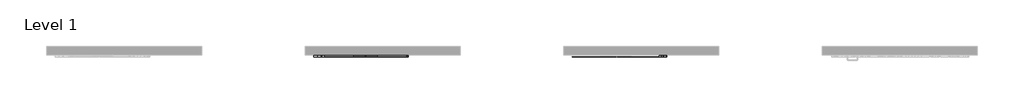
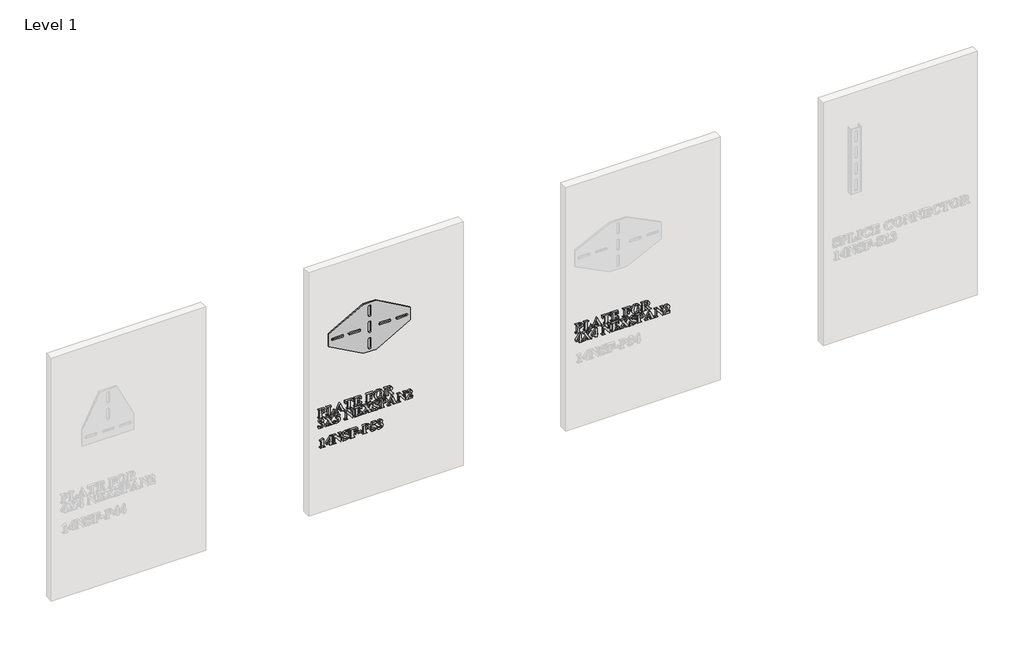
# One storey, part 19 of 21: 4 proxies.
"""IFC4 building model written with IfcOpenShell, lengths in millimetres."""

from ifc_helpers import new_model, si_unit, frame, origin, place, context, project, spatial, polyline, outline, extrude, transform, mapped, element, save
from components import generic_models_20bb5660

model = new_model("IFC4")

# Units and contexts
model_context = context("Model", 3, world=origin())
ifc_project = project(units=[si_unit("LENGTHUNIT", "METRE", prefix="MILLI")], contexts=[model_context])

# Site, building, storey
site = spatial("IfcSite", under=ifc_project)
building = spatial("IfcBuilding", under=site)
storey = spatial("IfcBuildingStorey", under=building, Name="Level 1", Elevation=0.0)

# Proxies
placement = place(None, origin())
element("IfcBuildingElementProxy", 1, Name="2\"\" Arial", ObjectType="2\"\" Arial", at=placement, inside=storey, context=model_context, shape_type="SweptSolid", body=[
    extrude(outline(polyline([(624.2127681, 32924.7890158), (625.1268914, 32938.043803), (630.022991, 32947.1781105), (638.6586857, 32950.4952699), (648.6032388, 32945.4468164), (652.5782899, 32928.7917676), (652.5782899, 32905.2877195), (650.8054448, 32905.2877195), (650.2029545, 32910.0730163), (648.5963136, 32911.8666369), (643.7140644, 32912.3791), (609.1435847, 32912.3791), (604.2751858, 32911.8666369), (602.6685449, 32910.0937918), (602.0522042, 32905.2877195), (600.2793591, 32905.2877195), (600.2793591, 32931.8803962), (602.0522042, 32931.8803962), (602.6546946, 32927.1089498), (604.2613354, 32925.3014788), (609.1435847, 32924.7890158), (624.2127681, 32924.7890158)]), holes=[polyline([(649.9190223, 32924.7890158), (649.9190223, 32926.5757112), (647.1628021, 32935.1975556), (638.4786311, 32938.0853541), (629.6421063, 32935.1975556), (626.7889337, 32926.9773714), (626.8720358, 32924.7890158), (649.9190223, 32924.7890158)])]), frame((0.0, -15490.3579358, 0.0), z_axis=(0.0, 1.0, 0.0), x_axis=(0.0, 0.0, 1.0)), (0.0, 0.0, 1.0), 12.7),
    extrude(outline(polyline([(619.7806553, 33001.9077782), (619.7806553, 33000.1349331), (610.1269597, 32996.3399365), (605.3416629, 32991.5892656), (603.8250493, 32984.7194908), (603.8250493, 32980.4120312), (604.1713081, 32975.7998638), (605.7848742, 32973.999318), (610.8333277, 32973.5422564), (643.7140644, 32973.5422564), (648.298531, 32973.9162159), (650.0436754, 32975.3289518), (650.8054448, 32978.597635), (650.8054448, 32980.6336368), (652.5782899, 32980.6336368), (652.5782899, 32954.0409601), (650.8054448, 32954.0409601), (650.8054448, 32955.7168528), (650.0990768, 32959.0686381), (648.4439597, 32960.7237552), (643.7140644, 32961.1323406), (609.1435847, 32961.1323406), (604.559118, 32960.7306804), (602.8139736, 32959.2348423), (602.0522042, 32955.7168528), (602.0522042, 32954.0409601), (600.2793591, 32954.0409601), (600.2793591, 33000.1349331), (619.7806553, 33001.9077782)])), frame((0.0, -15490.3579358, 0.0), z_axis=(0.0, 1.0, 0.0), x_axis=(0.0, 0.0, 1.0)), (0.0, 0.0, 1.0), 12.7),
    extrude(outline(polyline([(615.3485426, 33036.8660677), (608.7003734, 33039.7884921), (604.559118, 33041.1735273), (602.869375, 33040.3286558), (602.0522042, 33035.0101205), (600.2793591, 33035.0101205), (600.2793591, 33060.4116669), (602.0522042, 33060.4116669), (603.4095388, 33056.7136228), (610.9025794, 33052.28151), (653.4647125, 33032.6278599), (612.066009, 33013.8052309), (604.3375124, 33009.3384922), (602.0522042, 33004.7193997), (600.2793591, 33004.7193997), (600.2793591, 33022.4894019), (602.0522042, 33022.4894019), (602.9386268, 33017.3647715), (606.0272554, 33015.5919264), (610.0300072, 33016.6722539), (615.3485426, 33019.0822152), (615.3485426, 33036.8660677)]), holes=[polyline([(618.8942328, 33035.3148283), (618.8942328, 33020.6888561), (635.2376487, 33028.0987946), (618.8942328, 33035.3148283)])]), frame((0.0, -15490.3579358, 0.0), z_axis=(0.0, 1.0, 0.0), x_axis=(0.0, 0.0, 1.0)), (0.0, 0.0, 1.0), 12.7),
    extrude(outline(polyline([(652.5782899, 33110.05133), (652.5782899, 33063.9573571), (637.5091065, 33063.9573571), (637.5091065, 33065.7302022), (646.7195908, 33069.8299065), (649.0325997, 33077.2536955), (649.0325997, 33080.7993857), (609.1435847, 33080.7993857), (604.559118, 33080.3977255), (602.8139736, 33078.8741867), (602.0522042, 33075.3700475), (602.0522042, 33073.7080052), (600.2793591, 33073.7080052), (600.2793591, 33100.3006819), (602.0522042, 33100.3006819), (602.0522042, 33098.65249), (602.7585722, 33095.2868543), (604.4136893, 33093.6317372), (609.1435847, 33093.2093015), (649.0325997, 33093.2093015), (649.0325997, 33096.7549917), (648.3123814, 33101.6857172), (644.7874667, 33105.646918), (637.5091065, 33108.2784849), (637.5091065, 33110.05133), (652.5782899, 33110.05133)])), frame((0.0, -15490.3579358, 0.0), z_axis=(0.0, 1.0, 0.0), x_axis=(0.0, 0.0, 1.0)), (0.0, 0.0, 1.0), 12.7),
    extrude(outline(polyline([(649.0325997, 33134.8711616), (649.0325997, 33139.3032744), (648.3400821, 33147.3364788), (644.7320653, 33153.0289737), (636.6226839, 33156.145303), (636.6226839, 33157.9181481), (652.5782899, 33157.9181481), (652.5782899, 33115.3698654), (650.8054448, 33115.3698654), (650.8054448, 33117.045758), (649.7805187, 33120.896156), (647.827619, 33122.2811912), (643.7140644, 33122.4612458), (609.1435847, 33122.4612458), (604.559118, 33122.0595856), (602.8139736, 33120.5637475), (602.0522042, 33117.045758), (602.0522042, 33115.3698654), (600.2793591, 33115.3698654), (600.2793591, 33159.1785302), (616.8859317, 33160.1203541), (606.4427659, 33154.0054235), (602.9386268, 33142.6827604), (602.9386268, 33139.6633836), (603.5549675, 33136.5470543), (605.1339076, 33135.2243456), (610.4039667, 33134.8711616), (625.0991907, 33134.8711616), (624.0950401, 33139.878064), (620.1753904, 33142.9112912), (612.6892749, 33144.6218097), (612.6892749, 33146.3946548), (640.1683741, 33146.3946548), (640.1683741, 33144.6218097), (630.9024884, 33142.1148959), (627.7584584, 33134.8711616), (649.0325997, 33134.8711616)])), frame((0.0, -15490.3579358, 0.0), z_axis=(0.0, 1.0, 0.0), x_axis=(0.0, 0.0, 1.0)), (0.0, 0.0, 1.0), 12.7),
    extrude(outline(polyline([(649.0325997, 33206.6713887), (649.0325997, 33211.1035015), (648.4370346, 33219.6630193), (644.7251401, 33226.0757325), (636.6226839, 33228.8319526), (636.6226839, 33230.6047977), (652.5782899, 33230.6047977), (652.5782899, 33187.1700924), (650.8054448, 33187.1700924), (650.8054448, 33188.8459851), (650.0990768, 33192.1977704), (648.4439597, 33193.8528875), (643.7140644, 33194.2614729), (609.1435847, 33194.2614729), (604.559118, 33193.8598127), (602.8139736, 33192.3639746), (602.0522042, 33188.8459851), (602.0522042, 33187.1700924), (600.2793591, 33187.1700924), (600.2793591, 33213.7627691), (602.0522042, 33213.7627691), (602.0522042, 33212.1007268), (602.7585722, 33208.7558667), (604.4136893, 33207.0938244), (609.1435847, 33206.6713887), (625.0991907, 33206.6713887), (625.0991907, 33208.4442338), (622.6823042, 33215.3555597), (612.6892749, 33219.0813045), (612.6892749, 33220.8541496), (641.0547967, 33220.8541496), (641.0547967, 33219.0813045), (633.6725588, 33217.2253572), (629.7944602, 33213.7419936), (628.6448809, 33208.4442338), (628.6448809, 33206.6713887), (649.0325997, 33206.6713887)])), frame((0.0, -15490.3579358, 0.0), z_axis=(0.0, 1.0, 0.0), x_axis=(0.0, 0.0, 1.0)), (0.0, 0.0, 1.0), 12.7),
    extrude(outline(polyline([(653.4647125, 33263.0561735), (651.8788471, 33252.514324), (646.1794271, 33243.7695577), (637.4606302, 33237.8848892), (626.8166344, 33235.923333), (617.1733265, 33237.4295589), (608.9358294, 33241.9482364), (601.7786598, 33251.1656459), (599.3929366, 33263.5547862), (601.8929252, 33275.9127631), (609.392891, 33285.1197849), (626.8581854, 33290.8815315), (637.4969874, 33288.9494074), (646.2002026, 33283.1530349), (651.884041, 33274.2645712), (653.4647125, 33263.0561735)]), holes=[polyline([(650.8054448, 33263.5132351), (648.6863409, 33270.1267784), (641.4356814, 33274.8497486), (625.9440622, 33276.6987706), (611.8444034, 33274.8843745), (603.9774032, 33269.8151455), (602.0522042, 33263.4439833), (606.5120177, 33254.6213088), (626.2487699, 33250.1060939), (643.4924587, 33253.0285183), (648.9771983, 33257.4502433), (650.8054448, 33263.5132351)])]), frame((0.0, -15490.3579358, 0.0), z_axis=(0.0, 1.0, 0.0), x_axis=(0.0, 0.0, 1.0)), (0.0, 0.0, 1.0), 12.7),
    extrude(outline(polyline([(624.2127681, 33314.8149406), (624.2127681, 33318.249828), (600.2793591, 33335.0364551), (600.2793591, 33351.1582654), (602.0522042, 33351.1582654), (603.3956884, 33347.8895822), (607.7723998, 33344.7455522), (625.4592998, 33332.3356364), (628.9911397, 33339.2885133), (638.395529, 33343.1804624), (646.5326111, 33340.417317), (651.2902072, 33333.2843855), (652.5782899, 33319.4825093), (652.5782899, 33295.3136443), (650.8054448, 33295.3136443), (650.2029545, 33300.0989411), (648.5963136, 33301.8925617), (643.7140644, 33302.4050248), (609.1435847, 33302.4050248), (604.2751858, 33301.8925617), (602.6685449, 33300.1197166), (602.0522042, 33295.3136443), (600.2793591, 33295.3136443), (600.2793591, 33321.906321), (602.0522042, 33321.906321), (602.6546946, 33317.1210242), (604.2613354, 33315.3274036), (609.1435847, 33314.8149406), (624.2127681, 33314.8149406)]), holes=[polyline([(649.9190223, 33314.8149406), (649.9190223, 33318.9423456), (647.0450741, 33327.9727754), (638.160073, 33330.7705466), (631.4288018, 33329.2470078), (627.862336, 33325.0572762), (626.8720358, 33317.0171466), (626.8720358, 33314.8149406), (649.9190223, 33314.8149406)])]), frame((0.0, -15490.3579358, 0.0), z_axis=(0.0, 1.0, 0.0), x_axis=(0.0, 0.0, 1.0)), (0.0, 0.0, 1.0), 12.7),
    extrude(outline(polyline([(564.5485426, 32914.1519451), (558.3782106, 32926.0424727), (548.6206373, 32930.1075511), (542.8796662, 32928.0022975), (540.6151335, 32922.9607692), (543.7314628, 32915.7031846), (547.1524999, 32911.20182), (547.706514, 32908.7364573), (546.2176011, 32905.7101553), (542.6234346, 32904.401297), (537.9004645, 32906.6589044), (535.2965982, 32916.6034575), (536.8114805, 32925.779316), (541.3561274, 32932.8914719), (548.0648919, 32937.4517005), (556.0721269, 32938.9717767), (564.6177943, 32936.1324544), (570.3518402, 32927.8914947), (574.5554222, 32934.2765072), (579.5207736, 32936.312509), (586.4182491, 32932.6767915), (589.3683741, 32923.4455316), (586.9237869, 32913.4940533), (579.105263, 32907.0605646), (584.0498388, 32916.4511036), (581.6883537, 32922.39983), (576.0304847, 32924.7890158), (571.3282901, 32923.5078582), (567.8795523, 32920.4677058), (564.5485426, 32914.1519451)])), frame((0.0, -15490.3579358, 0.0), z_axis=(0.0, 1.0, 0.0), x_axis=(0.0, 0.0, 1.0)), (0.0, 0.0, 1.0), 12.7),
    extrude(outline(polyline([(566.5845444, 32976.5062318), (578.4681468, 32985.9937232), (584.2021927, 32991.0075508), (586.1481672, 32993.9715262), (586.7091065, 32997.6280193), (588.4819516, 32997.6280193), (588.4819516, 32978.1959748), (586.7091065, 32978.1959748), (586.2243441, 32981.6585629), (584.88086, 32983.3760066), (583.0110624, 32983.9715718), (575.9473826, 32979.7333639), (569.5069687, 32974.5810328), (579.146814, 32968.2514217), (584.3406962, 32965.3289974), (586.0304392, 32966.2154199), (586.7091065, 32970.6336823), (588.4819516, 32970.6336823), (588.4819516, 32945.0936324), (586.7091065, 32945.0936324), (585.9334867, 32947.8637029), (584.2021927, 32949.8997047), (579.0775623, 32953.6392999), (559.4377625, 32966.5478284), (546.8616425, 32956.4786222), (539.7425613, 32949.2764389), (537.9558659, 32943.8886518), (536.1830208, 32943.8886518), (536.1830208, 32964.2348195), (537.9558659, 32964.2348195), (538.1774715, 32960.9245853), (539.4655543, 32958.1891407), (541.4046036, 32957.2680922), (547.000146, 32960.8414832), (556.5291885, 32968.459177), (545.781315, 32975.5228568), (540.4627797, 32978.4868322), (538.8422884, 32977.6004096), (537.9558659, 32973.6807599), (536.1830208, 32973.6807599), (536.1830208, 32998.9715034), (537.9558659, 32998.9715034), (539.2993501, 32995.3704118), (545.6428115, 32990.2596318), (566.5845444, 32976.5062318)])), frame((0.0, -15490.3579358, 0.0), z_axis=(0.0, 1.0, 0.0), x_axis=(0.0, 0.0, 1.0)), (0.0, 0.0, 1.0), 12.7),
    extrude(outline(polyline([(564.5485426, 33009.8855812), (558.3782106, 33021.7761087), (548.6206373, 33025.8411872), (542.8796662, 33023.7359336), (540.6151335, 33018.6944053), (543.7314628, 33011.4368206), (547.1524999, 33006.9354561), (547.706514, 33004.4700934), (546.2176011, 33001.4437914), (542.6234346, 33000.1349331), (537.9004645, 33002.3925405), (535.2965982, 33012.3370936), (536.8114805, 33021.512952), (541.3561274, 33028.625108), (548.0648919, 33033.1853366), (556.0721269, 33034.7054127), (564.6177943, 33031.8660905), (570.3518402, 33023.6251308), (574.5554222, 33030.0101433), (579.5207736, 33032.0461451), (586.4182491, 33028.4104276), (589.3683741, 33019.1791677), (586.9237869, 33009.2276894), (579.105263, 33002.7942007), (584.0498388, 33012.1847397), (581.6883537, 33018.1334661), (576.0304847, 33020.5226518), (571.3282901, 33019.2414942), (567.8795523, 33016.2013419), (564.5485426, 33009.8855812)])), frame((0.0, -15490.3579358, 0.0), z_axis=(0.0, 1.0, 0.0), x_axis=(0.0, 0.0, 1.0)), (0.0, 0.0, 1.0), 12.7),
    extrude(outline(polyline([(588.4819516, 33078.61103), (588.4819516, 33060.1900612), (586.7091065, 33060.1900612), (586.1066161, 33063.8534795), (582.955661, 33067.5030473), (545.0472463, 33067.5030473), (539.5971326, 33065.9448827), (537.9558659, 33060.4116669), (536.1830208, 33060.4116669), (536.1830208, 33078.140118), (537.9558659, 33077.0459402), (539.4170781, 33072.8700589), (545.0472463, 33071.0487376), (578.4542964, 33071.0487376), (535.2965982, 33104.8712982), (535.2965982, 33106.5056398), (577.8448809, 33106.5056398), (583.2811442, 33107.1635316), (585.5664524, 33108.9987033), (586.7091065, 33113.5970203), (588.4819516, 33113.5970203), (588.4819516, 33095.8685691), (586.7091065, 33095.8685691), (584.4653494, 33101.6995675), (577.8448809, 33102.9599496), (557.4156111, 33102.9599496), (588.4819516, 33078.61103)])), frame((0.0, -15490.3579358, 0.0), z_axis=(0.0, 1.0, 0.0), x_axis=(0.0, 0.0, 1.0)), (0.0, 0.0, 1.0), 12.7),
    extrude(outline(polyline([(584.9362614, 33137.5304293), (584.9362614, 33141.9625421), (584.2437437, 33149.9957465), (580.6357269, 33155.6882413), (572.5263456, 33158.8045706), (572.5263456, 33160.5774157), (588.4819516, 33160.5774157), (588.4819516, 33118.029133), (586.7091065, 33118.029133), (586.7091065, 33119.7050257), (585.6841804, 33123.5554237), (583.7312807, 33124.9404589), (579.617726, 33125.1205135), (545.0472463, 33125.1205135), (540.4627797, 33124.7188533), (538.7176353, 33123.2230152), (537.9558659, 33119.7050257), (537.9558659, 33118.029133), (536.1830208, 33118.029133), (536.1830208, 33161.8377978), (552.7895933, 33162.7796218), (542.3464276, 33156.6646912), (538.8422884, 33145.3420281), (538.8422884, 33142.3226512), (539.4586291, 33139.2063219), (541.0375693, 33137.8836133), (546.3076284, 33137.5304293), (561.0028523, 33137.5304293), (559.9987018, 33142.5373317), (556.079052, 33145.5705589), (548.5929366, 33147.2810774), (548.5929366, 33149.0539225), (576.0720358, 33149.0539225), (576.0720358, 33147.2810774), (566.80615, 33144.7741636), (563.66212, 33137.5304293), (584.9362614, 33137.5304293)])), frame((0.0, -15490.3579358, 0.0), z_axis=(0.0, 1.0, 0.0), x_axis=(0.0, 0.0, 1.0)), (0.0, 0.0, 1.0), 12.7),
    extrude(outline(polyline([(566.5845444, 33200.7711385), (578.4681468, 33210.25863), (584.2021927, 33215.2724575), (586.1481672, 33218.236433), (586.7091065, 33221.892926), (588.4819516, 33221.892926), (588.4819516, 33202.4608815), (586.7091065, 33202.4608815), (586.2243441, 33205.9234696), (584.88086, 33207.6409134), (583.0110624, 33208.2364785), (575.9473826, 33203.9982707), (569.5069687, 33198.8459395), (579.146814, 33192.5163285), (584.3406962, 33189.5939041), (586.0304392, 33190.4803267), (586.7091065, 33194.8985891), (588.4819516, 33194.8985891), (588.4819516, 33169.3585392), (586.7091065, 33169.3585392), (585.9334867, 33172.1286097), (584.2021927, 33174.1646115), (579.0775623, 33177.9042067), (559.4377625, 33190.8127351), (546.8616425, 33180.7435289), (539.7425613, 33173.5413456), (537.9558659, 33168.1535585), (536.1830208, 33168.1535585), (536.1830208, 33188.4997263), (537.9558659, 33188.4997263), (538.1774715, 33185.189492), (539.4655543, 33182.4540474), (541.4046036, 33181.532999), (547.000146, 33185.1063899), (556.5291885, 33192.7240838), (545.781315, 33199.7877635), (540.4627797, 33202.7517389), (538.8422884, 33201.8653164), (537.9558659, 33197.9456666), (536.1830208, 33197.9456666), (536.1830208, 33223.2364102), (537.9558659, 33223.2364102), (539.2993501, 33219.6353186), (545.6428115, 33214.5245385), (566.5845444, 33200.7711385)])), frame((0.0, -15490.3579358, 0.0), z_axis=(0.0, 1.0, 0.0), x_axis=(0.0, 0.0, 1.0)), (0.0, 0.0, 1.0), 12.7),
    extrude(outline(polyline([(589.3683741, 33262.5160097), (589.3683741, 33260.7431646), (586.4320994, 33259.6351364), (585.8226839, 33258.0007948), (587.0622905, 33254.2404241), (588.7589586, 33249.6905834), (589.3683741, 33244.607504), (585.040139, 33232.6754254), (574.548497, 33227.94553), (567.9418789, 33229.5798716), (562.5056156, 33234.2612907), (556.5984403, 33245.1061167), (552.5541373, 33252.8623141), (549.2854542, 33256.1240721), (545.7259136, 33257.1974744), (540.2896503, 33254.5312815), (537.9558659, 33247.3637242), (542.2702507, 33236.511973), (554.7978944, 33229.7183751), (554.7978944, 33227.94553), (535.2965982, 33227.94553), (535.2965982, 33229.7183751), (537.9697162, 33231.5396965), (538.8422884, 33233.6795759), (537.9835666, 33236.7405038), (535.8575375, 33242.28757), (535.2965982, 33246.9759143), (539.9780173, 33260.0367966), (551.1691021, 33265.1752774), (560.2687837, 33262.5575608), (568.7174987, 33249.8706379), (573.2050128, 33240.7294053), (576.7645534, 33236.8097556), (579.8254813, 33235.923333), (584.6246284, 33238.3471447), (586.7091065, 33244.9260621), (582.5747763, 33254.9398669), (571.639923, 33260.7431646), (571.639923, 33262.5160097), (589.3683741, 33262.5160097)])), frame((0.0, -15490.3579358, 0.0), z_axis=(0.0, 1.0, 0.0), x_axis=(0.0, 0.0, 1.0)), (0.0, 0.0, 1.0), 12.7),
    extrude(outline(polyline([(560.1164298, 33288.2222639), (561.030553, 33301.4770512), (565.9266526, 33310.6113586), (574.5623474, 33313.928518), (584.5069004, 33308.8800645), (588.4819516, 33292.2250157), (588.4819516, 33268.7209676), (586.7091065, 33268.7209676), (586.1066161, 33273.5062644), (584.4999753, 33275.299885), (579.617726, 33275.8123481), (545.0472463, 33275.8123481), (540.1788474, 33275.299885), (538.5722066, 33273.5270399), (537.9558659, 33268.7209676), (536.1830208, 33268.7209676), (536.1830208, 33295.3136443), (537.9558659, 33295.3136443), (538.5583562, 33290.5421979), (540.1649971, 33288.7347269), (545.0472463, 33288.2222639), (560.1164298, 33288.2222639)]), holes=[polyline([(585.8226839, 33288.2222639), (585.8226839, 33290.0089593), (583.0664638, 33298.6308037), (574.3822928, 33301.5186022), (565.5457679, 33298.6308037), (562.6925953, 33290.4106195), (562.7756975, 33288.2222639), (585.8226839, 33288.2222639)])]), frame((0.0, -15490.3579358, 0.0), z_axis=(0.0, 1.0, 0.0), x_axis=(0.0, 0.0, 1.0)), (0.0, 0.0, 1.0), 12.7),
    extrude(outline(polyline([(551.2522042, 33348.000385), (544.604035, 33350.9228094), (540.4627797, 33352.3078446), (538.7730367, 33351.4629731), (537.9558659, 33346.1444378), (536.1830208, 33346.1444378), (536.1830208, 33371.5459842), (537.9558659, 33371.5459842), (539.3132004, 33367.8479401), (546.8062411, 33363.4158273), (589.3683741, 33343.7621772), (547.9696707, 33324.9395482), (540.241174, 33320.4728095), (537.9558659, 33315.853717), (536.1830208, 33315.853717), (536.1830208, 33333.6237192), (537.9558659, 33333.6237192), (538.8422884, 33328.4990888), (541.930917, 33326.7262437), (545.9336689, 33327.8065711), (551.2522042, 33330.2165325), (551.2522042, 33348.000385)]), holes=[polyline([(554.7978944, 33346.4491455), (554.7978944, 33331.8231734), (571.1413103, 33339.2331119), (554.7978944, 33346.4491455)])]), frame((0.0, -15490.3579358, 0.0), z_axis=(0.0, 1.0, 0.0), x_axis=(0.0, 0.0, 1.0)), (0.0, 0.0, 1.0), 12.7),
    extrude(outline(polyline([(588.4819516, 33391.5181924), (588.4819516, 33373.0972236), (586.7091065, 33373.0972236), (586.1066161, 33376.7606419), (582.955661, 33380.4102097), (545.0472463, 33380.4102097), (539.5971326, 33378.8520451), (537.9558659, 33373.3188293), (536.1830208, 33373.3188293), (536.1830208, 33391.0472804), (537.9558659, 33389.9531026), (539.4170781, 33385.7772213), (545.0472463, 33383.9558999), (578.4542964, 33383.9558999), (535.2965982, 33417.7784606), (535.2965982, 33419.4128022), (577.8448809, 33419.4128022), (583.2811442, 33420.0706939), (585.5664524, 33421.9058656), (586.7091065, 33426.5041827), (588.4819516, 33426.5041827), (588.4819516, 33408.7757315), (586.7091065, 33408.7757315), (584.4653494, 33414.6067299), (577.8448809, 33415.867112), (557.4156111, 33415.867112), (588.4819516, 33391.5181924)])), frame((0.0, -15490.3579358, 0.0), z_axis=(0.0, 1.0, 0.0), x_axis=(0.0, 0.0, 1.0)), (0.0, 0.0, 1.0), 12.7),
    extrude(outline(polyline([(536.1830208, 33460.5899), (551.2522042, 33462.2103913), (548.1635756, 33460.1120629), (547.1247992, 33458.076061), (546.8200914, 33452.7228998), (546.8200914, 33441.5595158), (566.3906394, 33458.2768912), (576.6260499, 33461.0746624), (582.5609259, 33459.1840892), (587.5470528, 33453.9555812), (589.3683741, 33446.5733433), (585.864235, 33436.5803141), (574.548497, 33431.5595613), (579.0152357, 33435.7285174), (580.5041486, 33441.3102094), (577.8241054, 33447.7852492), (571.0997593, 33450.4375917), (559.7286199, 33447.3351127), (536.1830208, 33429.1634503), (536.1830208, 33460.5899)])), frame((0.0, -15490.3579358, 0.0), z_axis=(0.0, 1.0, 0.0), x_axis=(0.0, 0.0, 1.0)), (0.0, 0.0, 1.0), 12.7),
])
element("IfcBuildingElementProxy", 2, Name="2\"\" Arial", ObjectType="2\"\" Arial", at=placement, inside=storey, context=model_context, shape_type="SweptSolid", body=[
    extrude(outline(polyline([(463.8692305, 32934.9409375), (455.0050049, 32915.1834097), (453.2321598, 32915.8482267), (454.4648412, 32920.4049926), (453.827725, 32922.4825455), (452.3111114, 32923.7152269), (447.9136245, 32924.0476353), (421.3209478, 32924.0476353), (415.2544934, 32923.5282471), (413.2046413, 32921.5407215), (412.4567222, 32915.1834097), (410.6838771, 32915.1834097), (410.6838771, 32943.5489316), (412.4567222, 32942.3162502), (413.273893, 32937.8425863), (415.3791466, 32936.0074146), (421.3209478, 32935.5711285), (463.8692305, 32934.9409375)])), frame((0.0, -15490.3579358, 0.0), z_axis=(0.0, 1.0, 0.0), x_axis=(0.0, 0.0, 1.0)), (0.0, 0.0, 1.0), 12.7),
    extrude(outline(polyline([(430.1851733, 32952.4131571), (422.2073703, 32952.4131571), (422.2073703, 32971.0280308), (410.6838771, 32971.0280308), (410.6838771, 32982.551524), (422.2073703, 32982.551524), (422.2073703, 32986.9836368), (430.1851733, 32986.9836368), (430.1851733, 32982.551524), (463.8692305, 32982.551524), (463.8692305, 32977.440744), (430.1851733, 32952.4131571)]), holes=[polyline([(430.1851733, 32955.1001255), (451.6116686, 32971.0280308), (430.1851733, 32971.0280308), (430.1851733, 32955.1001255)])]), frame((0.0, -15490.3579358, 0.0), z_axis=(0.0, 1.0, 0.0), x_axis=(0.0, 0.0, 1.0)), (0.0, 0.0, 1.0), 12.7),
    extrude(outline(polyline([(462.9828079, 33009.6151127), (462.9828079, 32991.194144), (461.2099628, 32991.194144), (460.6074725, 32994.8575622), (457.4565173, 32998.50713), (419.5481027, 32998.50713), (414.097989, 32996.9489654), (412.4567222, 32991.4157496), (410.6838771, 32991.4157496), (410.6838771, 33009.1442007), (412.4567222, 33008.0500229), (413.9179344, 33003.8741416), (419.5481027, 33002.0528203), (452.9551528, 33002.0528203), (409.7974546, 33035.8753809), (409.7974546, 33037.5097225), (452.3457373, 33037.5097225), (457.7820006, 33038.1676143), (460.0673087, 33040.002786), (461.2099628, 33044.601103), (462.9828079, 33044.601103), (462.9828079, 33026.8726518), (461.2099628, 33026.8726518), (458.9662057, 33032.7036502), (452.3457373, 33033.9640323), (431.9164674, 33033.9640323), (462.9828079, 33009.6151127)])), frame((0.0, -15490.3579358, 0.0), z_axis=(0.0, 1.0, 0.0), x_axis=(0.0, 0.0, 1.0)), (0.0, 0.0, 1.0), 12.7),
    extrude(outline(polyline([(463.8692305, 33085.3765406), (463.8692305, 33083.6036955), (460.9329558, 33082.4956673), (460.3235403, 33080.8613257), (461.5631468, 33077.100955), (463.259815, 33072.5511142), (463.8692305, 33067.4680349), (459.5409954, 33055.5359562), (449.0493534, 33050.8060609), (442.4427353, 33052.4404025), (437.0064719, 33057.1218216), (431.0992966, 33067.9666475), (427.0549937, 33075.7228449), (423.7863105, 33078.9846029), (420.2267699, 33080.0580052), (414.7905066, 33077.3918124), (412.4567222, 33070.224255), (416.771107, 33059.3725039), (429.2987508, 33052.578906), (429.2987508, 33050.8060609), (409.7974546, 33050.8060609), (409.7974546, 33052.578906), (412.4705726, 33054.4002273), (413.3431448, 33056.5401068), (412.4844229, 33059.6010347), (410.3583938, 33065.1481008), (409.7974546, 33069.8364451), (414.4788737, 33082.8973275), (425.6699585, 33088.0358082), (434.76964, 33085.4180916), (443.218355, 33072.7311688), (447.7058692, 33063.5899362), (451.2654098, 33059.6702864), (454.3263377, 33058.7838639), (459.1254848, 33061.2076756), (461.2099628, 33067.786593), (457.0756326, 33077.8003978), (446.1407794, 33083.6036955), (446.1407794, 33085.3765406), (463.8692305, 33085.3765406)])), frame((0.0, -15490.3579358, 0.0), z_axis=(0.0, 1.0, 0.0), x_axis=(0.0, 0.0, 1.0)), (0.0, 0.0, 1.0), 12.7),
    extrude(outline(polyline([(459.4371177, 33111.9692173), (459.4371177, 33116.40133), (458.8415526, 33124.9608478), (455.1296581, 33131.373561), (447.0272019, 33134.1297812), (447.0272019, 33135.9026263), (462.9828079, 33135.9026263), (462.9828079, 33092.467921), (461.2099628, 33092.467921), (461.2099628, 33094.1438137), (460.5035948, 33097.495599), (458.8484777, 33099.1507161), (454.1185824, 33099.5593015), (419.5481027, 33099.5593015), (414.963636, 33099.1576412), (413.2184916, 33097.6618032), (412.4567222, 33094.1438137), (412.4567222, 33092.467921), (410.6838771, 33092.467921), (410.6838771, 33119.0605977), (412.4567222, 33119.0605977), (412.4567222, 33117.3985554), (413.1630902, 33114.0536953), (414.8182073, 33112.391653), (419.5481027, 33111.9692173), (435.5037087, 33111.9692173), (435.5037087, 33113.7420624), (433.0868222, 33120.6533882), (423.0937929, 33124.379133), (423.0937929, 33126.1519782), (451.4593147, 33126.1519782), (451.4593147, 33124.379133), (444.0770768, 33122.5231858), (440.1989782, 33119.0398222), (439.0493989, 33113.7420624), (439.0493989, 33111.9692173), (459.4371177, 33111.9692173)])), frame((0.0, -15490.3579358, 0.0), z_axis=(0.0, 1.0, 0.0), x_axis=(0.0, 0.0, 1.0)), (0.0, 0.0, 1.0), 12.7),
    extrude(outline(polyline([(33161.6088804, -15490.3579358), (33139.4483165, -15490.3579358), (33139.4483165, -15477.6579358), (33161.6088804, -15477.6579358), (33161.6088804, -15490.3579358)])), frame((0.0, 0.0, 424.866638), z_axis=(0.0, 0.0, 1.0), x_axis=(1.0, 0.0, 0.0)), (0.0, 0.0, 1.0), 7.977803),
    extrude(outline(polyline([(434.6172861, 33185.5422894), (435.5314094, 33198.7970767), (440.427509, 33207.9313842), (449.0632037, 33211.2485436), (459.0077568, 33206.2000901), (462.9828079, 33189.5450413), (462.9828079, 33166.0409932), (461.2099628, 33166.0409932), (460.6074725, 33170.82629), (459.0008316, 33172.6199106), (454.1185824, 33173.1323736), (419.5481027, 33173.1323736), (414.6797038, 33172.6199106), (413.0730629, 33170.8470655), (412.4567222, 33166.0409932), (410.6838771, 33166.0409932), (410.6838771, 33192.6336699), (412.4567222, 33192.6336699), (413.0592126, 33187.8622235), (414.6658534, 33186.0547525), (419.5481027, 33185.5422894), (434.6172861, 33185.5422894)]), holes=[polyline([(460.3235403, 33185.5422894), (460.3235403, 33187.3289849), (457.5673201, 33195.9508293), (448.8831491, 33198.8386278), (440.0466243, 33195.9508293), (437.1934517, 33187.7306451), (437.2765538, 33185.5422894), (460.3235403, 33185.5422894)])]), frame((0.0, -15490.3579358, 0.0), z_axis=(0.0, 1.0, 0.0), x_axis=(0.0, 0.0, 1.0)), (0.0, 0.0, 1.0), 12.7),
    extrude(outline(polyline([(462.9828079, 33224.5448819), (436.3901312, 33214.7942338), (436.4316823, 33217.9659645), (432.2073248, 33235.3758575), (427.3527763, 33240.5489642), (421.2378457, 33242.273333), (415.6630788, 33240.0018752), (413.3431448, 33234.489435), (413.8417575, 33231.7332148), (416.2655691, 33227.5781091), (419.7697083, 33222.1764716), (420.4345252, 33219.0601423), (419.1395173, 33216.0753914), (416.1547663, 33214.7942338), (412.2351166, 33217.2457462), (409.7974546, 33227.3149524), (412.1104634, 33238.4852616), (419.0633403, 33246.4699898), (428.5646821, 33249.3647135), (435.5210216, 33247.8169366), (441.2377546, 33243.1736059), (445.9953507, 33234.0462237), (447.9136245, 33221.7055597), (452.3457373, 33223.3260509), (452.3457373, 33245.8190233), (462.9828079, 33249.3647135), (462.9828079, 33224.5448819)])), frame((0.0, -15490.3579358, 0.0), z_axis=(0.0, 1.0, 0.0), x_axis=(0.0, 0.0, 1.0)), (0.0, 0.0, 1.0), 12.7),
    extrude(outline(polyline([(439.0493989, 33262.6610518), (432.8790669, 33274.5515794), (423.1214936, 33278.6166578), (417.3805225, 33276.5114043), (415.1159899, 33271.469876), (418.2323192, 33264.2122913), (421.6533562, 33259.7109268), (422.2073703, 33257.245564), (420.7184575, 33254.219262), (417.124291, 33252.9104037), (412.4013208, 33255.1680112), (409.7974546, 33265.1125642), (411.3123369, 33274.2884227), (415.8569837, 33281.4005787), (422.5657482, 33285.9608072), (430.5729832, 33287.4808834), (439.1186507, 33284.6415612), (444.8526966, 33276.4006015), (449.0562786, 33282.7856139), (454.0216299, 33284.8216157), (460.9191054, 33281.1858982), (463.8692305, 33271.9546383), (461.4246433, 33262.0031601), (453.6061193, 33255.5696714), (458.5506952, 33264.9602103), (456.1892101, 33270.9089367), (450.5313411, 33273.2981225), (445.8291464, 33272.0169649), (442.3804087, 33268.9768125), (439.0493989, 33262.6610518)])), frame((0.0, -15490.3579358, 0.0), z_axis=(0.0, 1.0, 0.0), x_axis=(0.0, 0.0, 1.0)), (0.0, 0.0, 1.0), 12.7),
])
element("IfcBuildingElementProxy", 3, Name="2\"\" Arial", ObjectType="2\"\" Arial", at=placement, inside=storey, context=model_context, shape_type="SweptSolid", body=[
    extrude(outline(polyline([(624.2127681, 34448.7890158), (625.1268914, 34462.043803), (630.022991, 34471.1781105), (638.6586857, 34474.4952699), (648.6032388, 34469.4468164), (652.5782899, 34452.7917676), (652.5782899, 34429.2877195), (650.8054448, 34429.2877195), (650.2029545, 34434.0730163), (648.5963136, 34435.8666369), (643.7140644, 34436.3791), (609.1435847, 34436.3791), (604.2751858, 34435.8666369), (602.6685449, 34434.0937918), (602.0522042, 34429.2877195), (600.2793591, 34429.2877195), (600.2793591, 34455.8803962), (602.0522042, 34455.8803962), (602.6546946, 34451.1089498), (604.2613354, 34449.3014788), (609.1435847, 34448.7890158), (624.2127681, 34448.7890158)]), holes=[polyline([(649.9190223, 34448.7890158), (649.9190223, 34450.5757112), (647.1628021, 34459.1975556), (638.4786311, 34462.0853541), (629.6421063, 34459.1975556), (626.7889337, 34450.9773714), (626.8720358, 34448.7890158), (649.9190223, 34448.7890158)])]), frame((0.0, -15490.3579358, 0.0), z_axis=(0.0, 1.0, 0.0), x_axis=(0.0, 0.0, 1.0)), (0.0, 0.0, 1.0), 12.7),
    extrude(outline(polyline([(619.7806553, 34525.9077782), (619.7806553, 34524.1349331), (610.1269597, 34520.3399365), (605.3416629, 34515.5892656), (603.8250493, 34508.7194908), (603.8250493, 34504.4120312), (604.1713081, 34499.7998638), (605.7848742, 34497.999318), (610.8333277, 34497.5422564), (643.7140644, 34497.5422564), (648.298531, 34497.9162159), (650.0436754, 34499.3289518), (650.8054448, 34502.597635), (650.8054448, 34504.6336368), (652.5782899, 34504.6336368), (652.5782899, 34478.0409601), (650.8054448, 34478.0409601), (650.8054448, 34479.7168528), (650.0990768, 34483.0686381), (648.4439597, 34484.7237552), (643.7140644, 34485.1323406), (609.1435847, 34485.1323406), (604.559118, 34484.7306804), (602.8139736, 34483.2348423), (602.0522042, 34479.7168528), (602.0522042, 34478.0409601), (600.2793591, 34478.0409601), (600.2793591, 34524.1349331), (619.7806553, 34525.9077782)])), frame((0.0, -15490.3579358, 0.0), z_axis=(0.0, 1.0, 0.0), x_axis=(0.0, 0.0, 1.0)), (0.0, 0.0, 1.0), 12.7),
    extrude(outline(polyline([(615.3485426, 34560.8660677), (608.7003734, 34563.7884921), (604.559118, 34565.1735273), (602.869375, 34564.3286558), (602.0522042, 34559.0101205), (600.2793591, 34559.0101205), (600.2793591, 34584.4116669), (602.0522042, 34584.4116669), (603.4095388, 34580.7136228), (610.9025794, 34576.28151), (653.4647125, 34556.6278599), (612.066009, 34537.8052309), (604.3375124, 34533.3384922), (602.0522042, 34528.7193997), (600.2793591, 34528.7193997), (600.2793591, 34546.4894019), (602.0522042, 34546.4894019), (602.9386268, 34541.3647715), (606.0272554, 34539.5919264), (610.0300072, 34540.6722539), (615.3485426, 34543.0822152), (615.3485426, 34560.8660677)]), holes=[polyline([(618.8942328, 34559.3148283), (618.8942328, 34544.6888561), (635.2376487, 34552.0987946), (618.8942328, 34559.3148283)])]), frame((0.0, -15490.3579358, 0.0), z_axis=(0.0, 1.0, 0.0), x_axis=(0.0, 0.0, 1.0)), (0.0, 0.0, 1.0), 12.7),
    extrude(outline(polyline([(652.5782899, 34634.05133), (652.5782899, 34587.9573571), (637.5091065, 34587.9573571), (637.5091065, 34589.7302022), (646.7195908, 34593.8299065), (649.0325997, 34601.2536955), (649.0325997, 34604.7993857), (609.1435847, 34604.7993857), (604.559118, 34604.3977255), (602.8139736, 34602.8741867), (602.0522042, 34599.3700475), (602.0522042, 34597.7080052), (600.2793591, 34597.7080052), (600.2793591, 34624.3006819), (602.0522042, 34624.3006819), (602.0522042, 34622.65249), (602.7585722, 34619.2868543), (604.4136893, 34617.6317372), (609.1435847, 34617.2093015), (649.0325997, 34617.2093015), (649.0325997, 34620.7549917), (648.3123814, 34625.6857172), (644.7874667, 34629.646918), (637.5091065, 34632.2784849), (637.5091065, 34634.05133), (652.5782899, 34634.05133)])), frame((0.0, -15490.3579358, 0.0), z_axis=(0.0, 1.0, 0.0), x_axis=(0.0, 0.0, 1.0)), (0.0, 0.0, 1.0), 12.7),
    extrude(outline(polyline([(649.0325997, 34658.8711616), (649.0325997, 34663.3032744), (648.3400821, 34671.3364788), (644.7320653, 34677.0289737), (636.6226839, 34680.145303), (636.6226839, 34681.9181481), (652.5782899, 34681.9181481), (652.5782899, 34639.3698654), (650.8054448, 34639.3698654), (650.8054448, 34641.045758), (649.7805187, 34644.896156), (647.827619, 34646.2811912), (643.7140644, 34646.4612458), (609.1435847, 34646.4612458), (604.559118, 34646.0595856), (602.8139736, 34644.5637475), (602.0522042, 34641.045758), (602.0522042, 34639.3698654), (600.2793591, 34639.3698654), (600.2793591, 34683.1785302), (616.8859317, 34684.1203541), (606.4427659, 34678.0054235), (602.9386268, 34666.6827604), (602.9386268, 34663.6633836), (603.5549675, 34660.5470543), (605.1339076, 34659.2243456), (610.4039667, 34658.8711616), (625.0991907, 34658.8711616), (624.0950401, 34663.878064), (620.1753904, 34666.9112912), (612.6892749, 34668.6218097), (612.6892749, 34670.3946548), (640.1683741, 34670.3946548), (640.1683741, 34668.6218097), (630.9024884, 34666.1148959), (627.7584584, 34658.8711616), (649.0325997, 34658.8711616)])), frame((0.0, -15490.3579358, 0.0), z_axis=(0.0, 1.0, 0.0), x_axis=(0.0, 0.0, 1.0)), (0.0, 0.0, 1.0), 12.7),
    extrude(outline(polyline([(649.0325997, 34730.6713887), (649.0325997, 34735.1035015), (648.4370346, 34743.6630193), (644.7251401, 34750.0757325), (636.6226839, 34752.8319526), (636.6226839, 34754.6047977), (652.5782899, 34754.6047977), (652.5782899, 34711.1700924), (650.8054448, 34711.1700924), (650.8054448, 34712.8459851), (650.0990768, 34716.1977704), (648.4439597, 34717.8528875), (643.7140644, 34718.2614729), (609.1435847, 34718.2614729), (604.559118, 34717.8598127), (602.8139736, 34716.3639746), (602.0522042, 34712.8459851), (602.0522042, 34711.1700924), (600.2793591, 34711.1700924), (600.2793591, 34737.7627691), (602.0522042, 34737.7627691), (602.0522042, 34736.1007268), (602.7585722, 34732.7558667), (604.4136893, 34731.0938244), (609.1435847, 34730.6713887), (625.0991907, 34730.6713887), (625.0991907, 34732.4442338), (622.6823042, 34739.3555597), (612.6892749, 34743.0813045), (612.6892749, 34744.8541496), (641.0547967, 34744.8541496), (641.0547967, 34743.0813045), (633.6725588, 34741.2253572), (629.7944602, 34737.7419936), (628.6448809, 34732.4442338), (628.6448809, 34730.6713887), (649.0325997, 34730.6713887)])), frame((0.0, -15490.3579358, 0.0), z_axis=(0.0, 1.0, 0.0), x_axis=(0.0, 0.0, 1.0)), (0.0, 0.0, 1.0), 12.7),
    extrude(outline(polyline([(653.4647125, 34787.0561735), (651.8788471, 34776.514324), (646.1794271, 34767.7695577), (637.4606302, 34761.8848892), (626.8166344, 34759.923333), (617.1733265, 34761.4295589), (608.9358294, 34765.9482364), (601.7786598, 34775.1656459), (599.3929366, 34787.5547862), (601.8929252, 34799.9127631), (609.392891, 34809.1197849), (626.8581854, 34814.8815315), (637.4969874, 34812.9494074), (646.2002026, 34807.1530349), (651.884041, 34798.2645712), (653.4647125, 34787.0561735)]), holes=[polyline([(650.8054448, 34787.5132351), (648.6863409, 34794.1267784), (641.4356814, 34798.8497486), (625.9440622, 34800.6987706), (611.8444034, 34798.8843745), (603.9774032, 34793.8151455), (602.0522042, 34787.4439833), (606.5120177, 34778.6213088), (626.2487699, 34774.1060939), (643.4924587, 34777.0285183), (648.9771983, 34781.4502433), (650.8054448, 34787.5132351)])]), frame((0.0, -15490.3579358, 0.0), z_axis=(0.0, 1.0, 0.0), x_axis=(0.0, 0.0, 1.0)), (0.0, 0.0, 1.0), 12.7),
    extrude(outline(polyline([(624.2127681, 34838.8149406), (624.2127681, 34842.249828), (600.2793591, 34859.0364551), (600.2793591, 34875.1582654), (602.0522042, 34875.1582654), (603.3956884, 34871.8895822), (607.7723998, 34868.7455522), (625.4592998, 34856.3356364), (628.9911397, 34863.2885133), (638.395529, 34867.1804624), (646.5326111, 34864.417317), (651.2902072, 34857.2843855), (652.5782899, 34843.4825093), (652.5782899, 34819.3136443), (650.8054448, 34819.3136443), (650.2029545, 34824.0989411), (648.5963136, 34825.8925617), (643.7140644, 34826.4050248), (609.1435847, 34826.4050248), (604.2751858, 34825.8925617), (602.6685449, 34824.1197166), (602.0522042, 34819.3136443), (600.2793591, 34819.3136443), (600.2793591, 34845.906321), (602.0522042, 34845.906321), (602.6546946, 34841.1210242), (604.2613354, 34839.3274036), (609.1435847, 34838.8149406), (624.2127681, 34838.8149406)]), holes=[polyline([(649.9190223, 34838.8149406), (649.9190223, 34842.9423456), (647.0450741, 34851.9727754), (638.160073, 34854.7705466), (631.4288018, 34853.2470078), (627.862336, 34849.0572762), (626.8720358, 34841.0171466), (626.8720358, 34838.8149406), (649.9190223, 34838.8149406)])]), frame((0.0, -15490.3579358, 0.0), z_axis=(0.0, 1.0, 0.0), x_axis=(0.0, 0.0, 1.0)), (0.0, 0.0, 1.0), 12.7),
    extrude(outline(polyline([(555.684317, 34430.1741421), (547.706514, 34430.1741421), (547.706514, 34448.7890158), (536.1830208, 34448.7890158), (536.1830208, 34460.312509), (547.706514, 34460.312509), (547.706514, 34464.7446218), (555.684317, 34464.7446218), (555.684317, 34460.312509), (589.3683741, 34460.312509), (589.3683741, 34455.2017289), (555.684317, 34430.1741421)]), holes=[polyline([(555.684317, 34432.8611105), (577.1108122, 34448.7890158), (555.684317, 34448.7890158), (555.684317, 34432.8611105)])]), frame((0.0, -15490.3579358, 0.0), z_axis=(0.0, 1.0, 0.0), x_axis=(0.0, 0.0, 1.0)), (0.0, 0.0, 1.0), 12.7),
    extrude(outline(polyline([(566.5845444, 34500.5062318), (578.4681468, 34509.9937232), (584.2021927, 34515.0075508), (586.1481672, 34517.9715262), (586.7091065, 34521.6280193), (588.4819516, 34521.6280193), (588.4819516, 34502.1959748), (586.7091065, 34502.1959748), (586.2243441, 34505.6585629), (584.88086, 34507.3760066), (583.0110624, 34507.9715718), (575.9473826, 34503.7333639), (569.5069687, 34498.5810328), (579.146814, 34492.2514217), (584.3406962, 34489.3289974), (586.0304392, 34490.2154199), (586.7091065, 34494.6336823), (588.4819516, 34494.6336823), (588.4819516, 34469.0936324), (586.7091065, 34469.0936324), (585.9334867, 34471.8637029), (584.2021927, 34473.8997047), (579.0775623, 34477.6392999), (559.4377625, 34490.5478284), (546.8616425, 34480.4786222), (539.7425613, 34473.2764389), (537.9558659, 34467.8886518), (536.1830208, 34467.8886518), (536.1830208, 34488.2348195), (537.9558659, 34488.2348195), (538.1774715, 34484.9245853), (539.4655543, 34482.1891407), (541.4046036, 34481.2680922), (547.000146, 34484.8414832), (556.5291885, 34492.459177), (545.781315, 34499.5228568), (540.4627797, 34502.4868322), (538.8422884, 34501.6004096), (537.9558659, 34497.6807599), (536.1830208, 34497.6807599), (536.1830208, 34522.9715034), (537.9558659, 34522.9715034), (539.2993501, 34519.3704118), (545.6428115, 34514.2596318), (566.5845444, 34500.5062318)])), frame((0.0, -15490.3579358, 0.0), z_axis=(0.0, 1.0, 0.0), x_axis=(0.0, 0.0, 1.0)), (0.0, 0.0, 1.0), 12.7),
    extrude(outline(polyline([(555.684317, 34525.9077782), (547.706514, 34525.9077782), (547.706514, 34544.5226518), (536.1830208, 34544.5226518), (536.1830208, 34556.0461451), (547.706514, 34556.0461451), (547.706514, 34560.4782579), (555.684317, 34560.4782579), (555.684317, 34556.0461451), (589.3683741, 34556.0461451), (589.3683741, 34550.935365), (555.684317, 34525.9077782)]), holes=[polyline([(555.684317, 34528.5947465), (577.1108122, 34544.5226518), (555.684317, 34544.5226518), (555.684317, 34528.5947465)])]), frame((0.0, -15490.3579358, 0.0), z_axis=(0.0, 1.0, 0.0), x_axis=(0.0, 0.0, 1.0)), (0.0, 0.0, 1.0), 12.7),
    extrude(outline(polyline([(588.4819516, 34602.61103), (588.4819516, 34584.1900612), (586.7091065, 34584.1900612), (586.1066161, 34587.8534795), (582.955661, 34591.5030473), (545.0472463, 34591.5030473), (539.5971326, 34589.9448827), (537.9558659, 34584.4116669), (536.1830208, 34584.4116669), (536.1830208, 34602.140118), (537.9558659, 34601.0459402), (539.4170781, 34596.8700589), (545.0472463, 34595.0487376), (578.4542964, 34595.0487376), (535.2965982, 34628.8712982), (535.2965982, 34630.5056398), (577.8448809, 34630.5056398), (583.2811442, 34631.1635316), (585.5664524, 34632.9987033), (586.7091065, 34637.5970203), (588.4819516, 34637.5970203), (588.4819516, 34619.8685691), (586.7091065, 34619.8685691), (584.4653494, 34625.6995675), (577.8448809, 34626.9599496), (557.4156111, 34626.9599496), (588.4819516, 34602.61103)])), frame((0.0, -15490.3579358, 0.0), z_axis=(0.0, 1.0, 0.0), x_axis=(0.0, 0.0, 1.0)), (0.0, 0.0, 1.0), 12.7),
    extrude(outline(polyline([(584.9362614, 34661.5304293), (584.9362614, 34665.9625421), (584.2437437, 34673.9957465), (580.6357269, 34679.6882413), (572.5263456, 34682.8045706), (572.5263456, 34684.5774157), (588.4819516, 34684.5774157), (588.4819516, 34642.029133), (586.7091065, 34642.029133), (586.7091065, 34643.7050257), (585.6841804, 34647.5554237), (583.7312807, 34648.9404589), (579.617726, 34649.1205135), (545.0472463, 34649.1205135), (540.4627797, 34648.7188533), (538.7176353, 34647.2230152), (537.9558659, 34643.7050257), (537.9558659, 34642.029133), (536.1830208, 34642.029133), (536.1830208, 34685.8377978), (552.7895933, 34686.7796218), (542.3464276, 34680.6646912), (538.8422884, 34669.3420281), (538.8422884, 34666.3226512), (539.4586291, 34663.2063219), (541.0375693, 34661.8836133), (546.3076284, 34661.5304293), (561.0028523, 34661.5304293), (559.9987018, 34666.5373317), (556.079052, 34669.5705589), (548.5929366, 34671.2810774), (548.5929366, 34673.0539225), (576.0720358, 34673.0539225), (576.0720358, 34671.2810774), (566.80615, 34668.7741636), (563.66212, 34661.5304293), (584.9362614, 34661.5304293)])), frame((0.0, -15490.3579358, 0.0), z_axis=(0.0, 1.0, 0.0), x_axis=(0.0, 0.0, 1.0)), (0.0, 0.0, 1.0), 12.7),
    extrude(outline(polyline([(566.5845444, 34724.7711385), (578.4681468, 34734.25863), (584.2021927, 34739.2724575), (586.1481672, 34742.236433), (586.7091065, 34745.892926), (588.4819516, 34745.892926), (588.4819516, 34726.4608815), (586.7091065, 34726.4608815), (586.2243441, 34729.9234696), (584.88086, 34731.6409134), (583.0110624, 34732.2364785), (575.9473826, 34727.9982707), (569.5069687, 34722.8459395), (579.146814, 34716.5163285), (584.3406962, 34713.5939041), (586.0304392, 34714.4803267), (586.7091065, 34718.8985891), (588.4819516, 34718.8985891), (588.4819516, 34693.3585392), (586.7091065, 34693.3585392), (585.9334867, 34696.1286097), (584.2021927, 34698.1646115), (579.0775623, 34701.9042067), (559.4377625, 34714.8127351), (546.8616425, 34704.7435289), (539.7425613, 34697.5413456), (537.9558659, 34692.1535585), (536.1830208, 34692.1535585), (536.1830208, 34712.4997263), (537.9558659, 34712.4997263), (538.1774715, 34709.189492), (539.4655543, 34706.4540474), (541.4046036, 34705.532999), (547.000146, 34709.1063899), (556.5291885, 34716.7240838), (545.781315, 34723.7877635), (540.4627797, 34726.7517389), (538.8422884, 34725.8653164), (537.9558659, 34721.9456666), (536.1830208, 34721.9456666), (536.1830208, 34747.2364102), (537.9558659, 34747.2364102), (539.2993501, 34743.6353186), (545.6428115, 34738.5245385), (566.5845444, 34724.7711385)])), frame((0.0, -15490.3579358, 0.0), z_axis=(0.0, 1.0, 0.0), x_axis=(0.0, 0.0, 1.0)), (0.0, 0.0, 1.0), 12.7),
    extrude(outline(polyline([(589.3683741, 34786.5160097), (589.3683741, 34784.7431646), (586.4320994, 34783.6351364), (585.8226839, 34782.0007948), (587.0622905, 34778.2404241), (588.7589586, 34773.6905834), (589.3683741, 34768.607504), (585.040139, 34756.6754254), (574.548497, 34751.94553), (567.9418789, 34753.5798716), (562.5056156, 34758.2612907), (556.5984403, 34769.1061167), (552.5541373, 34776.8623141), (549.2854542, 34780.1240721), (545.7259136, 34781.1974744), (540.2896503, 34778.5312815), (537.9558659, 34771.3637242), (542.2702507, 34760.511973), (554.7978944, 34753.7183751), (554.7978944, 34751.94553), (535.2965982, 34751.94553), (535.2965982, 34753.7183751), (537.9697162, 34755.5396965), (538.8422884, 34757.6795759), (537.9835666, 34760.7405038), (535.8575375, 34766.28757), (535.2965982, 34770.9759143), (539.9780173, 34784.0367966), (551.1691021, 34789.1752774), (560.2687837, 34786.5575608), (568.7174987, 34773.8706379), (573.2050128, 34764.7294053), (576.7645534, 34760.8097556), (579.8254813, 34759.923333), (584.6246284, 34762.3471447), (586.7091065, 34768.9260621), (582.5747763, 34778.9398669), (571.639923, 34784.7431646), (571.639923, 34786.5160097), (589.3683741, 34786.5160097)])), frame((0.0, -15490.3579358, 0.0), z_axis=(0.0, 1.0, 0.0), x_axis=(0.0, 0.0, 1.0)), (0.0, 0.0, 1.0), 12.7),
    extrude(outline(polyline([(560.1164298, 34812.2222639), (561.030553, 34825.4770512), (565.9266526, 34834.6113586), (574.5623474, 34837.928518), (584.5069004, 34832.8800645), (588.4819516, 34816.2250157), (588.4819516, 34792.7209676), (586.7091065, 34792.7209676), (586.1066161, 34797.5062644), (584.4999753, 34799.299885), (579.617726, 34799.8123481), (545.0472463, 34799.8123481), (540.1788474, 34799.299885), (538.5722066, 34797.5270399), (537.9558659, 34792.7209676), (536.1830208, 34792.7209676), (536.1830208, 34819.3136443), (537.9558659, 34819.3136443), (538.5583562, 34814.5421979), (540.1649971, 34812.7347269), (545.0472463, 34812.2222639), (560.1164298, 34812.2222639)]), holes=[polyline([(585.8226839, 34812.2222639), (585.8226839, 34814.0089593), (583.0664638, 34822.6308037), (574.3822928, 34825.5186022), (565.5457679, 34822.6308037), (562.6925953, 34814.4106195), (562.7756975, 34812.2222639), (585.8226839, 34812.2222639)])]), frame((0.0, -15490.3579358, 0.0), z_axis=(0.0, 1.0, 0.0), x_axis=(0.0, 0.0, 1.0)), (0.0, 0.0, 1.0), 12.7),
    extrude(outline(polyline([(551.2522042, 34872.000385), (544.604035, 34874.9228094), (540.4627797, 34876.3078446), (538.7730367, 34875.4629731), (537.9558659, 34870.1444378), (536.1830208, 34870.1444378), (536.1830208, 34895.5459842), (537.9558659, 34895.5459842), (539.3132004, 34891.8479401), (546.8062411, 34887.4158273), (589.3683741, 34867.7621772), (547.9696707, 34848.9395482), (540.241174, 34844.4728095), (537.9558659, 34839.853717), (536.1830208, 34839.853717), (536.1830208, 34857.6237192), (537.9558659, 34857.6237192), (538.8422884, 34852.4990888), (541.930917, 34850.7262437), (545.9336689, 34851.8065711), (551.2522042, 34854.2165325), (551.2522042, 34872.000385)]), holes=[polyline([(554.7978944, 34870.4491455), (554.7978944, 34855.8231734), (571.1413103, 34863.2331119), (554.7978944, 34870.4491455)])]), frame((0.0, -15490.3579358, 0.0), z_axis=(0.0, 1.0, 0.0), x_axis=(0.0, 0.0, 1.0)), (0.0, 0.0, 1.0), 12.7),
    extrude(outline(polyline([(588.4819516, 34915.5181924), (588.4819516, 34897.0972236), (586.7091065, 34897.0972236), (586.1066161, 34900.7606419), (582.955661, 34904.4102097), (545.0472463, 34904.4102097), (539.5971326, 34902.8520451), (537.9558659, 34897.3188293), (536.1830208, 34897.3188293), (536.1830208, 34915.0472804), (537.9558659, 34913.9531026), (539.4170781, 34909.7772213), (545.0472463, 34907.9558999), (578.4542964, 34907.9558999), (535.2965982, 34941.7784606), (535.2965982, 34943.4128022), (577.8448809, 34943.4128022), (583.2811442, 34944.0706939), (585.5664524, 34945.9058656), (586.7091065, 34950.5041827), (588.4819516, 34950.5041827), (588.4819516, 34932.7757315), (586.7091065, 34932.7757315), (584.4653494, 34938.6067299), (577.8448809, 34939.867112), (557.4156111, 34939.867112), (588.4819516, 34915.5181924)])), frame((0.0, -15490.3579358, 0.0), z_axis=(0.0, 1.0, 0.0), x_axis=(0.0, 0.0, 1.0)), (0.0, 0.0, 1.0), 12.7),
    extrude(outline(polyline([(536.1830208, 34984.5899), (551.2522042, 34986.2103913), (548.1635756, 34984.1120629), (547.1247992, 34982.076061), (546.8200914, 34976.7228998), (546.8200914, 34965.5595158), (566.3906394, 34982.2768912), (576.6260499, 34985.0746624), (582.5609259, 34983.1840892), (587.5470528, 34977.9555812), (589.3683741, 34970.5733433), (585.864235, 34960.5803141), (574.548497, 34955.5595613), (579.0152357, 34959.7285174), (580.5041486, 34965.3102094), (577.8241054, 34971.7852492), (571.0997593, 34974.4375917), (559.7286199, 34971.3351127), (536.1830208, 34953.1634503), (536.1830208, 34984.5899)])), frame((0.0, -15490.3579358, 0.0), z_axis=(0.0, 1.0, 0.0), x_axis=(0.0, 0.0, 1.0)), (0.0, 0.0, 1.0), 12.7),
])
generic_models_shape = generic_models_20bb5660(model_context)
element("IfcBuildingElementProxy", 4, Name="14NSF-P53 : 14NSF-P53", ObjectType="14NSF-P53 : 14NSF-P53", at=placement, inside=storey, context=model_context, shape_type="MappedRepresentation", body=[
    mapped(generic_models_shape, transform((33209.3187481, -15477.6579358, 1066.8), x_axis=(1.0, 0.0, 0.0), y_axis=(0.0, 0.0, 1.0), z_axis=(0.0, -1.0, 0.0))),
])

save(model, "model.ifc")
